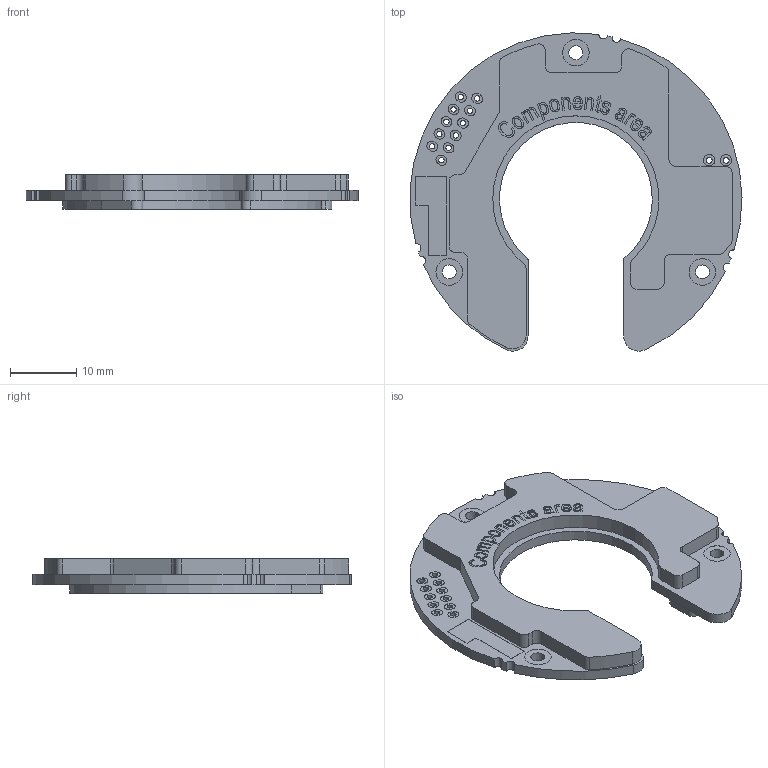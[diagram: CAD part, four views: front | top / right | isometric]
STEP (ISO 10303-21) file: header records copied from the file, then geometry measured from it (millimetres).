
FILE_DESCRIPTION (( 'STEP AP214' ), '1' );
FILE_NAME ('BR20_brez_konektorja_UVW.STEP', '2024-02-23T10:36:08', ( '' ), ( '' ), 'SwSTEP 2.0', 'SolidWorks 2022', '' );
FILE_SCHEMA (( 'AUTOMOTIVE_DESIGN' ));
Length unit declared in the file: millimetre
Products named in the file (1): BR20_brez_konektorja_UVW
Bounding box: 49.96 x 47.9 x 5.14 mm (x, y, z)
Volume: 4241.6 mm3; surface area: 3842.4 mm2
Topology: 1 solids, 1 shells, 717 faces, 1914 edges, 1276 vertices
Faces by surface type: plane 296, bspline 240, cylinder 181
Entity records: 42742 total; most frequent: CARTESIAN_POINT 18212, ORIENTED_EDGE 3828, DIRECTION 2752, EDGE_CURVE 1914, VERTEX_POINT 1276, VECTOR 1072, LINE 1072, AXIS2_PLACEMENT_3D 840
